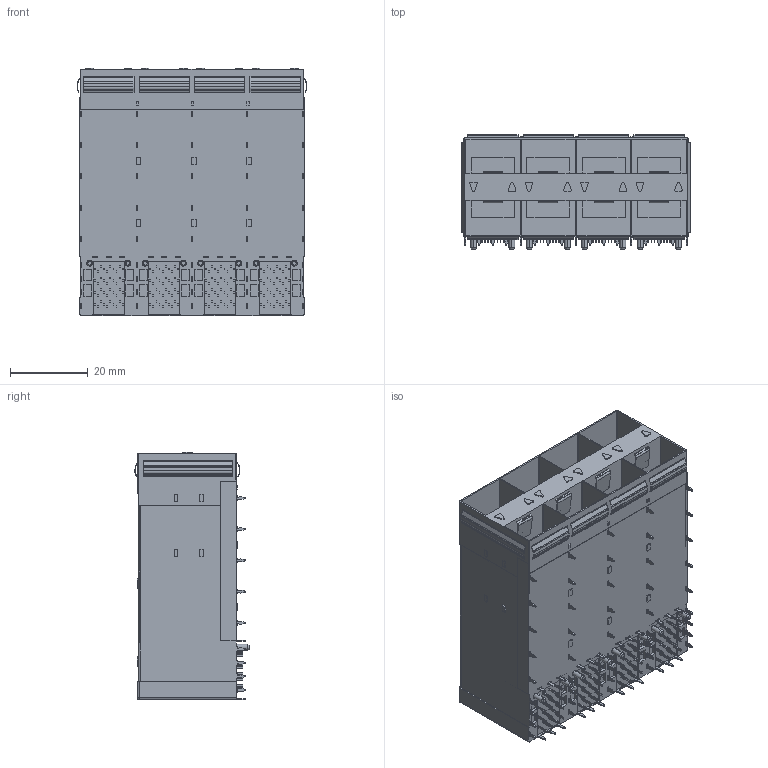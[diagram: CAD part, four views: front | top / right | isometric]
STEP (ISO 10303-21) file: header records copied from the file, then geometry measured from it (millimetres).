
FILE_DESCRIPTION (( 'STEP AP214' ), '1' );
FILE_NAME ('SFP28 2X4 有月牙 外灯(上下) 3D.STEP', '2025-06-13T00:08:28', ( '桑三博客' ), ( 'Www.SangSan.Cn' ), 'SwSTEP 2.0', 'SolidWorks 2018', '' );
FILE_SCHEMA (( 'AUTOMOTIVE_DESIGN' ));
Length unit declared in the file: millimetre
Products named in the file (1): SFP28 2X4 衄堎挴 俋腑(奻狟)  3D
Bounding box: 59.06 x 29.38 x 63.5 mm (x, y, z)
Volume: 46752.2 mm3; surface area: 34466.6 mm2
Topology: 1 solids, 1 shells, 3008 faces, 8395 edges, 5674 vertices
Faces by surface type: plane 2074, cylinder 916, cone 16, sphere 2
Entity records: 96663 total; most frequent: CARTESIAN_POINT 17076, ORIENTED_EDGE 16786, DIRECTION 16263, EDGE_CURVE 8393, LINE 6541, VECTOR 6541, VERTEX_POINT 5674, AXIS2_PLACEMENT_3D 4861
